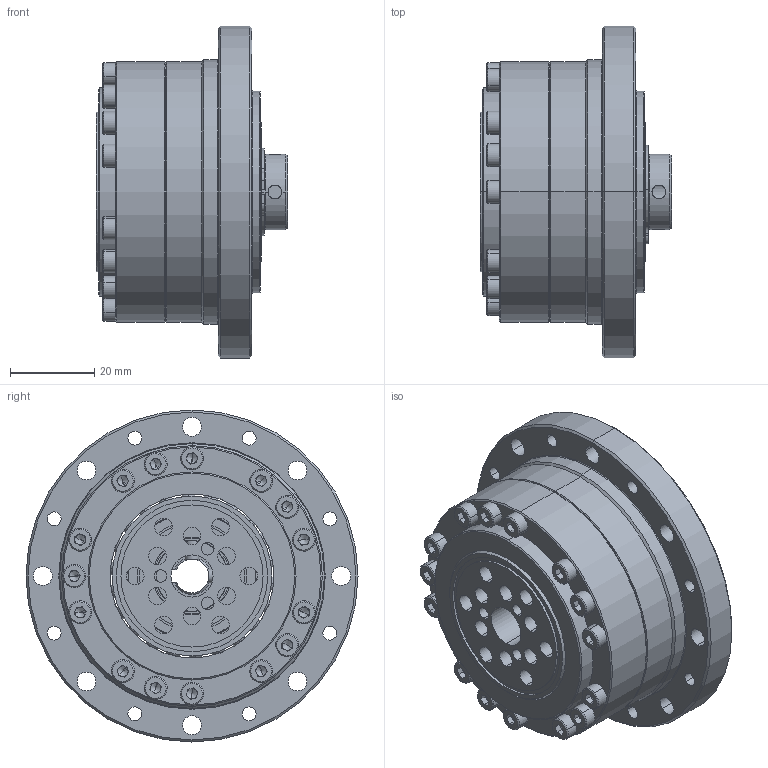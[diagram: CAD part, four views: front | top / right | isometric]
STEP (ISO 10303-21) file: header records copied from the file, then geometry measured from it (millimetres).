
FILE_DESCRIPTION (( 'STEP AP203' ), '1' );
FILE_NAME ('BCSG-17-XXX-U-¢ò.STEP', '2019-01-15T03:31:51', ( 'User' ), ( 'China' ), 'SwSTEP 2.0', 'SolidWorks 2015', '' );
FILE_SCHEMA (( 'CONFIG_CONTROL_DESIGN' ));
Length unit declared in the file: millimetre
Products named in the file (1): BCSG-17-XXX-U-ｊ
Bounding box: 45.46 x 79 x 79 mm (x, y, z)
Surface area: 34954.7 mm2 (no closed solid volume)
Topology: 0 solids, 29 shells, 510 faces, 1655 edges, 1067 vertices
Faces by surface type: plane 160, cylinder 155, cone 85, torus 64, sphere 44, bspline 2
Entity records: 17991 total; most frequent: CARTESIAN_POINT 4167, DIRECTION 3025, ORIENTED_EDGE 2569, EDGE_CURVE 1515, AXIS2_PLACEMENT_3D 1201, VERTEX_POINT 1001, CIRCLE 692, EDGE_LOOP 628
